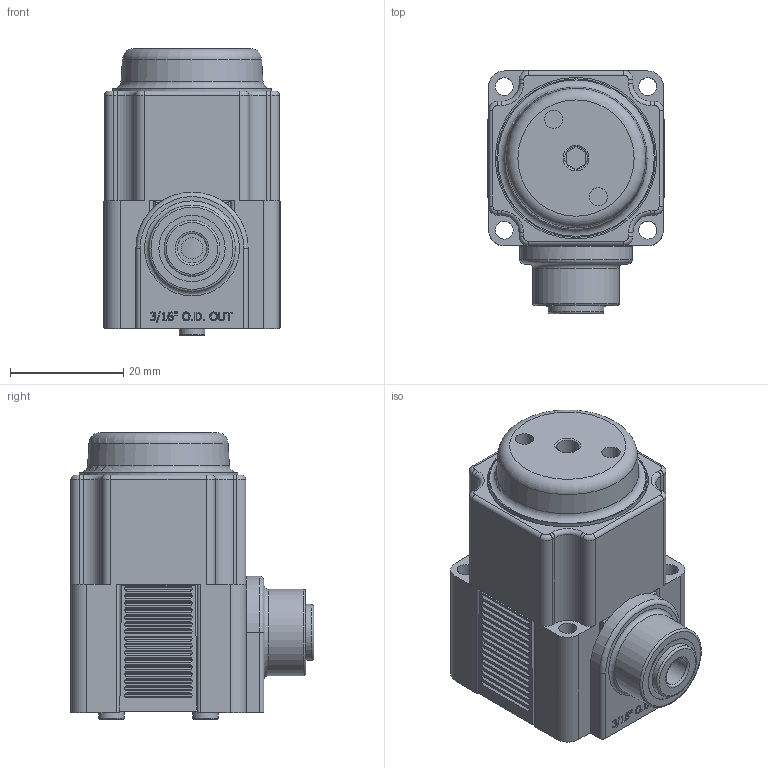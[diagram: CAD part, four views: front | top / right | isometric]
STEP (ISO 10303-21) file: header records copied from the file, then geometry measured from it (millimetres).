
FILE_DESCRIPTION(/* description */ (''),/* implementation_level */ '2;1');
FILE_NAME(/* name */ 'K:\Normteile INVENTOR\Air-Logic\Regulators\PR6000\PR 6___ 4 Push-In Fitting for 3''16 O.D. Tube Out.igs.ipt.stp',/* time_stamp */ '2020-05-27T10:52:54+02:00',/* author */ ('Paul'),/* organization */ (''),/* preprocessor_version */ 'ST-DEVELOPER v18',/* originating_system */ 'Autodesk Inventor 2020',/* authorisation */ '');
FILE_SCHEMA (('AUTOMOTIVE_DESIGN { 1 0 10303 214 3 1 1 }'));
Length unit declared in the file: inch
Products named in the file (1): PR 6___ 4 Push-In Fitting for 3'16 O.D. Tube Out.igs
Bounding box: 31.19 x 43.08 x 50.78 mm (x, y, z)
Volume: 41498.5 mm3; surface area: 13740.1 mm2
Topology: 1 solids, 1 shells, 820 faces, 2126 edges, 1402 vertices
Faces by surface type: plane 406, cylinder 274, bspline 103, torus 34, cone 3
Full cylindrical faces by diameter (mm): 1.194 x1, 2.032 x1, 3.124 x2, 3.175 x8, 3.226 x2, 3.785 x1, 4.013 x1, 4.521 x2, 5.207 x1, 6.045 x1, 8.382 x2, 9.169 x1, 9.398 x1, 9.906 x1, 11.735 x1, 12.903 x1, 15.291 x1, 25.781 x1, 28.047 x1, 28.575 x1
Entity records: 29557 total; most frequent: CARTESIAN_POINT 8622, ORIENTED_EDGE 4252, DIRECTION 4099, EDGE_CURVE 2126, AXIS2_PLACEMENT_3D 1550, VERTEX_POINT 1402, LINE 999, VECTOR 999
